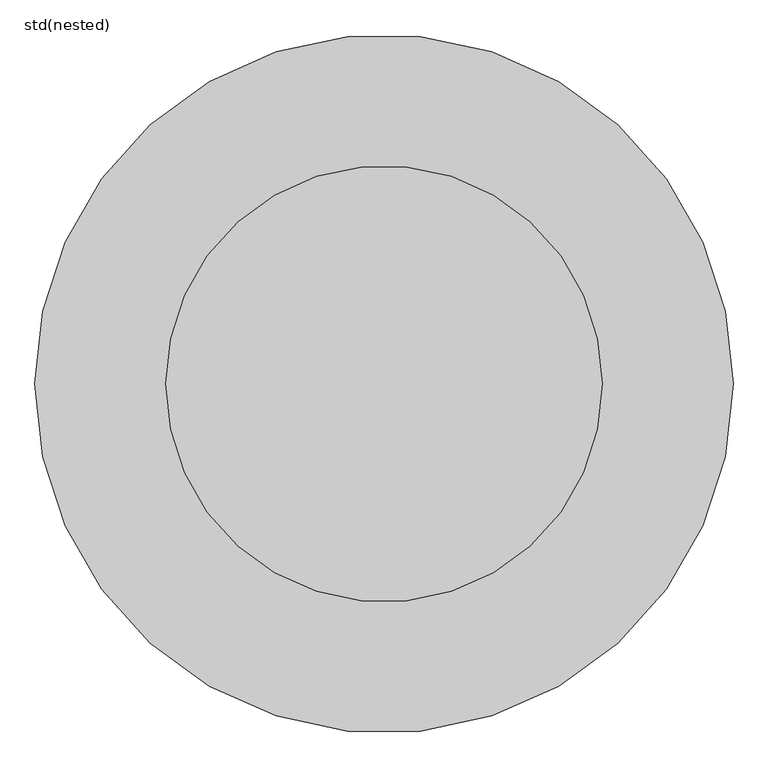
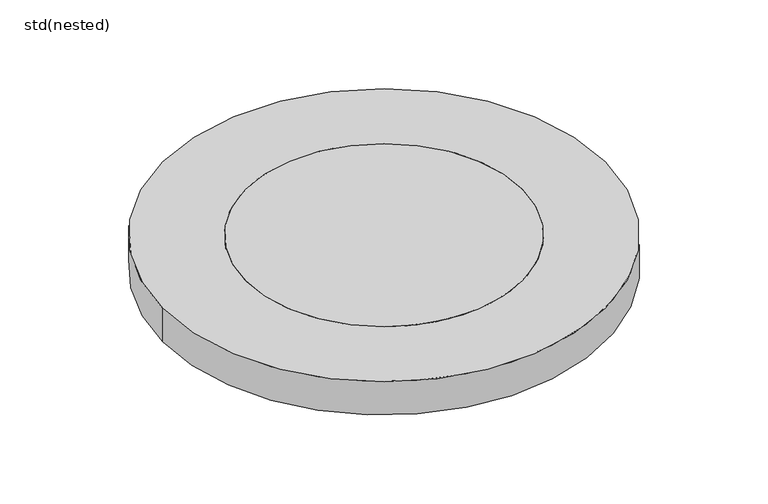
"""IFC4 building model written with IfcOpenShell, lengths in millimetres: unitary equipment geometry, ZZZ_do not use_ME_ST_WPB_top sections_plastic_ACO : std(nested)."""

from ifc_helpers import new_model, si_unit, point, frame, origin, origin_2d, place, context, project, spatial, circle_curve, trimmed, segment, composite_curve, outline, extrude, source, transform, mapped, element, save


def std_nested_4c688dec(model_context):
    return source(origin(), model_context, "Body", "SweptSolid", [
        extrude(outline(composite_curve([segment(trimmed(circle_curve(origin_2d(), 312.5), [point((312.5, 0.0))], [point((-312.5, 0.0))], False, "CARTESIAN"), True, "CONTINUOUS"), segment(trimmed(circle_curve(origin_2d(), 312.5), [point((-312.5, 0.0))], [point((312.5, 0.0))], False, "CARTESIAN"), True, "CONTINUOUS")], self_intersect=False)), frame((0.0, 0.0, -60.0), z_axis=(0.0, 0.0, 1.0), x_axis=(1.0, 0.0, 0.0)), (0.0, 0.0, 1.0), 60.0),
        extrude(outline(composite_curve([segment(trimmed(circle_curve(origin_2d(), 500.0), [point((-500.0, 0.0))], [point((500.0, 0.0))], False, "CARTESIAN"), True, "CONTINUOUS"), segment(trimmed(circle_curve(origin_2d(), 500.0), [point((500.0, 0.0))], [point((-500.0, 0.0))], False, "CARTESIAN"), True, "CONTINUOUS")], self_intersect=False), holes=[composite_curve([segment(trimmed(circle_curve(origin_2d(), 312.5), [point((-312.5, 0.0))], [point((312.5, 0.0))], True, "CARTESIAN"), True, "CONTINUOUS"), segment(trimmed(circle_curve(origin_2d(), 312.5), [point((312.5, 0.0))], [point((-312.5, 0.0))], True, "CARTESIAN"), True, "CONTINUOUS")], self_intersect=False)]), frame((0.0, 0.0, -80.0), z_axis=(0.0, 0.0, 1.0), x_axis=(1.0, 0.0, 0.0)), (0.0, 0.0, 1.0), 80.0),
    ])


if __name__ == "__main__":
    model = new_model("IFC4")
    model_context = context("Model", 3, world=origin())
    ifc_project = project(units=[si_unit("LENGTHUNIT", "METRE", prefix="MILLI")], contexts=[model_context])
    site = spatial("IfcSite", under=ifc_project)
    building = spatial("IfcBuilding", under=site)
    placement = place(None, origin())
    std_nested_shape = std_nested_4c688dec(model_context)
    element("IfcUnitaryEquipment", 1, ObjectType="ZZZ_do not use_ME_ST_WPB_top sections_plastic_ACO : std(nested)", at=placement, inside=building, context=model_context, shape_type="MappedRepresentation", body=[
        mapped(std_nested_shape, transform((0.0, 0.0, 0.0), x_axis=(1.0, 0.0, 0.0), y_axis=(0.0, 1.0, 0.0), z_axis=(0.0, 0.0, 1.0))),
    ])
    save(model, "model.ifc")
